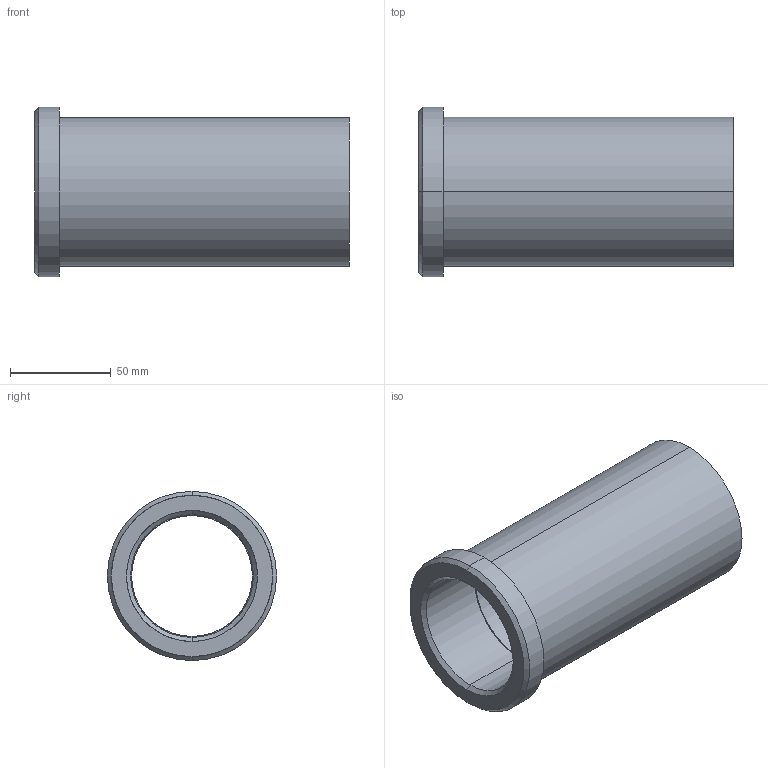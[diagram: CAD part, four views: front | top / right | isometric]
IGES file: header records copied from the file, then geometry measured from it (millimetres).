
Start section: START RECORD GO HERE.
Global section: file name: 353-60X156.igs; native system: DASSAULT SYSTEMES CATIA V5 R20 - www.3ds.com; preprocessor: CATIA Version 5 Release 20 ; author: Utente; organization: NB04-ASUS; date: 20210514.195627; units: millimetre
Bounding box: 156 x 84 x 84 mm (x, y, z)
Surface area: 70818.2 mm2 (no closed solid volume)
Topology: 0 solids, 0 shells, 18 faces, 116 edges, 116 vertices
Faces by surface type: revolution 14, plane 4
